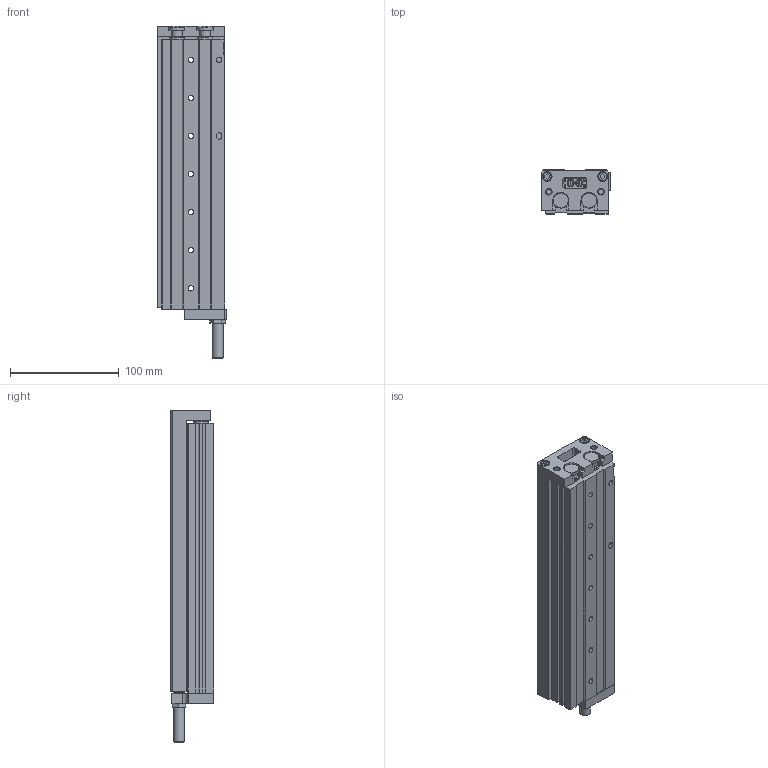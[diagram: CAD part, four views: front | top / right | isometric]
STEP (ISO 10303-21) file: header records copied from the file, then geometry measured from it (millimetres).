
FILE_DESCRIPTION( ( 'STEP AP214' ), '1' );
FILE_NAME( 'C:/Users/EMC02301/Desktop/ELSL图纸/ELSL16X125-S-BF.stp', '2026-08-05T07:48:59', ( 'License CC BY-ND 4.0' ), ( 'CADENAS' ), ' ', 'PARTsolutions', ' ' );
FILE_SCHEMA( ( 'AUTOMOTIVE_DESIGN { 1 0 10303 214 1 1 1 1 }' ) );
Length unit declared in the file: millimetre
Products named in the file (4): ELSL16X125-S-BF(0)(); _ELSL16X125-S-BF(HX-07)(HX-07-1)(0-body); _ELSL16X125-S-BF(0-rod); _FJ-ELSL16-BF-(BF)
Assembly tree (3 placements, depth 2):
  ELSL16X125-S-BF(0)()
    _ELSL16X125-S-BF(HX-07)(HX-07-1)(0-body)
    _ELSL16X125-S-BF(0-rod)
    _FJ-ELSL16-BF-(BF)
Bounding box: 64 x 40 x 305 mm (x, y, z)
Volume: 541715.6 mm3; surface area: 167387.2 mm2
Topology: 3 solids, 3 shells, 514 faces, 1237 edges, 817 vertices
Faces by surface type: plane 373, cylinder 111, cone 28, torus 2
Full cylindrical faces by diameter (mm): 3 x1, 4.134 x14, 4.459 x2, 4.917 x9, 5 x2, 5.1 x7, 5.5 x8, 6.5 x8, 8 x9, 8.5 x2, 9 x6, 10 x2, 10.5 x14, 14 x6, 16 x4, 18 x2
Entity records: 18302 total; most frequent: CARTESIAN_POINT 2404, DIRECTION 2384, ORIENTED_EDGE 2180, EDGE_CURVE 1090, LINE 832, VECTOR 832, VERTEX_POINT 796, AXIS2_PLACEMENT_3D 776
